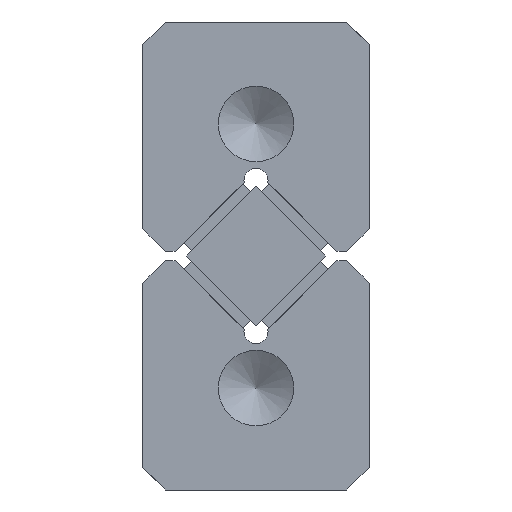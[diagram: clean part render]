
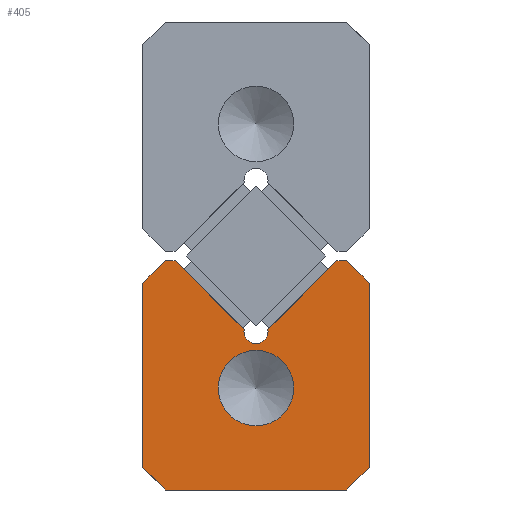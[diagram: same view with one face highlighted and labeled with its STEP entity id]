
A CAD part, left-side view. The second image highlights one B-rep face of the part: STEP entity #405.
In plain terms, the highlighted planar face has unit normal (-1, 0, 0).
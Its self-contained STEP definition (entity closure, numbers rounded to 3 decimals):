
#184=CARTESIAN_POINT('',(0.0,2.5,0.75));
#185=VERTEX_POINT('',#184);
#186=CARTESIAN_POINT('',(0.0,0.0,0.75));
#187=DIRECTION('',(1.0,0.0,0.0));
#188=DIRECTION('',(0.0,1.0,0.0));
#189=AXIS2_PLACEMENT_3D('',#186,#187,#188);
#190=CIRCLE('',#189,2.5);
#191=EDGE_CURVE('',#185,#185,#190,.T.);
#214=CARTESIAN_POINT('',(0.0,-6.,9.2));
#215=VERTEX_POINT('',#214);
#222=CARTESIAN_POINT('',(0.0,-7.5,7.7));
#223=VERTEX_POINT('',#222);
#224=CARTESIAN_POINT('',(0.0,-6.,9.2));
#225=DIRECTION('',(0.0,-0.707,-0.707));
#226=VECTOR('',#225,2.121);
#227=LINE('',#224,#226);
#228=EDGE_CURVE('',#215,#223,#227,.T.);
#245=CARTESIAN_POINT('',(0.0,-7.5,-4.5));
#246=VERTEX_POINT('',#245);
#247=CARTESIAN_POINT('',(0.0,-7.5,7.7));
#248=DIRECTION('',(0.0,0.0,-1.0));
#249=VECTOR('',#248,12.2);
#250=LINE('',#247,#249);
#251=EDGE_CURVE('',#223,#246,#250,.T.);
#314=CARTESIAN_POINT('',(0.0,0.,1.512));
#315=DIRECTION('',(1.0,0.0,0.0));
#316=DIRECTION('',(0.0,0.0,-1.0));
#317=AXIS2_PLACEMENT_3D('',#314,#315,#316);
#318=PLANE('',#317);
#319=ORIENTED_EDGE('',*,*,#228,.F.);
#320=CARTESIAN_POINT('',(0.0,-5.357,9.2));
#321=VERTEX_POINT('',#320);
#322=CARTESIAN_POINT('',(0.0,-5.357,9.2));
#323=DIRECTION('',(0.0,-1.0,0.0));
#324=VECTOR('',#323,0.643);
#325=LINE('',#322,#324);
#326=EDGE_CURVE('',#321,#215,#325,.T.);
#327=ORIENTED_EDGE('',*,*,#326,.F.);
#328=CARTESIAN_POINT('',(0.0,-0.789,4.632));
#329=VERTEX_POINT('',#328);
#330=CARTESIAN_POINT('',(0.0,-0.789,4.632));
#331=DIRECTION('',(0.0,-0.707,0.707));
#332=VECTOR('',#331,6.46);
#333=LINE('',#330,#332);
#334=EDGE_CURVE('',#329,#321,#333,.T.);
#335=ORIENTED_EDGE('',*,*,#334,.F.);
#336=CARTESIAN_POINT('',(0.0,0.789,4.632));
#337=VERTEX_POINT('',#336);
#338=CARTESIAN_POINT('',(0.0,0.0,4.5));
#339=DIRECTION('',(-1.,0.0,0.0));
#340=DIRECTION('',(0.0,0.986,-0.165));
#341=AXIS2_PLACEMENT_3D('',#338,#339,#340);
#342=CIRCLE('',#341,0.8);
#343=EDGE_CURVE('',#337,#329,#342,.T.);
#344=ORIENTED_EDGE('',*,*,#343,.F.);
#345=CARTESIAN_POINT('',(0.0,5.357,9.2));
#346=VERTEX_POINT('',#345);
#347=CARTESIAN_POINT('',(0.0,5.357,9.2));
#348=DIRECTION('',(0.0,-0.707,-0.707));
#349=VECTOR('',#348,6.46);
#350=LINE('',#347,#349);
#351=EDGE_CURVE('',#346,#337,#350,.T.);
#352=ORIENTED_EDGE('',*,*,#351,.F.);
#353=CARTESIAN_POINT('',(0.0,6.,9.2));
#354=VERTEX_POINT('',#353);
#355=CARTESIAN_POINT('',(0.0,6.,9.2));
#356=DIRECTION('',(0.0,-1.0,0.0));
#357=VECTOR('',#356,0.643);
#358=LINE('',#355,#357);
#359=EDGE_CURVE('',#354,#346,#358,.T.);
#360=ORIENTED_EDGE('',*,*,#359,.F.);
#361=CARTESIAN_POINT('',(0.0,7.5,7.7));
#362=VERTEX_POINT('',#361);
#363=CARTESIAN_POINT('',(0.0,7.5,7.7));
#364=DIRECTION('',(0.0,-0.707,0.707));
#365=VECTOR('',#364,2.121);
#366=LINE('',#363,#365);
#367=EDGE_CURVE('',#362,#354,#366,.T.);
#368=ORIENTED_EDGE('',*,*,#367,.F.);
#369=CARTESIAN_POINT('',(0.0,7.5,-4.5));
#370=VERTEX_POINT('',#369);
#371=CARTESIAN_POINT('',(0.0,7.5,-4.5));
#372=DIRECTION('',(0.0,0.0,1.0));
#373=VECTOR('',#372,12.2);
#374=LINE('',#371,#373);
#375=EDGE_CURVE('',#370,#362,#374,.T.);
#376=ORIENTED_EDGE('',*,*,#375,.F.);
#377=CARTESIAN_POINT('',(0.0,6.,-6.));
#378=VERTEX_POINT('',#377);
#379=CARTESIAN_POINT('',(0.0,6.,-6.));
#380=DIRECTION('',(0.0,0.707,0.707));
#381=VECTOR('',#380,2.121);
#382=LINE('',#379,#381);
#383=EDGE_CURVE('',#378,#370,#382,.T.);
#384=ORIENTED_EDGE('',*,*,#383,.F.);
#385=CARTESIAN_POINT('',(0.0,-6.,-6.));
#386=VERTEX_POINT('',#385);
#387=CARTESIAN_POINT('',(0.0,-6.,-6.));
#388=DIRECTION('',(0.0,1.0,0.0));
#389=VECTOR('',#388,12.);
#390=LINE('',#387,#389);
#391=EDGE_CURVE('',#386,#378,#390,.T.);
#392=ORIENTED_EDGE('',*,*,#391,.F.);
#393=CARTESIAN_POINT('',(0.0,-7.5,-4.5));
#394=DIRECTION('',(0.0,0.707,-0.707));
#395=VECTOR('',#394,2.121);
#396=LINE('',#393,#395);
#397=EDGE_CURVE('',#246,#386,#396,.T.);
#398=ORIENTED_EDGE('',*,*,#397,.F.);
#399=ORIENTED_EDGE('',*,*,#251,.F.);
#400=EDGE_LOOP('',(#319,#327,#335,#344,#352,#360,#368,#376,#384,#392,#398,#399));
#401=FACE_OUTER_BOUND('',#400,.T.);
#402=ORIENTED_EDGE('',*,*,#191,.T.);
#403=EDGE_LOOP('',(#402));
#404=FACE_BOUND('',#403,.T.);
#405=ADVANCED_FACE('',(#401,#404),#318,.F.);
